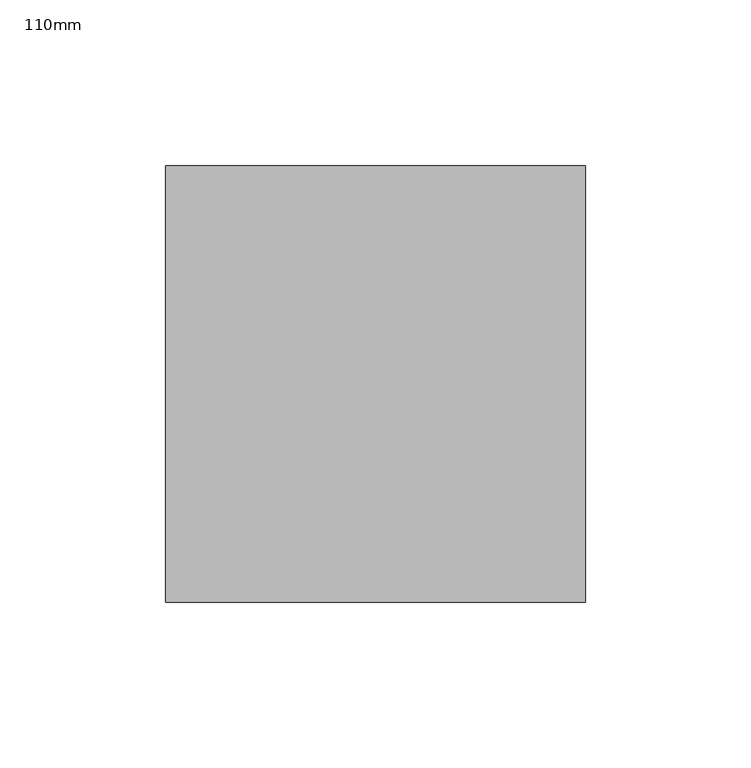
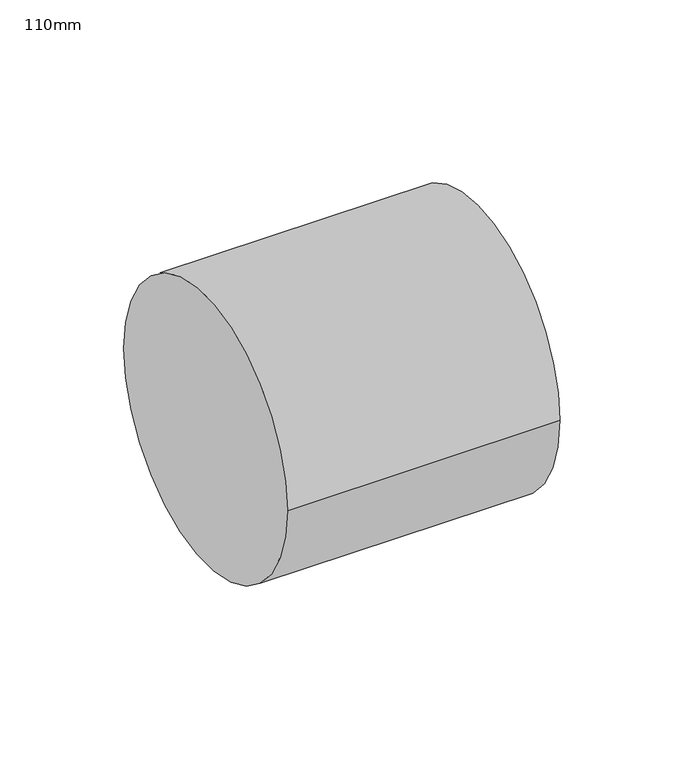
"""IFC4 building model written with IfcOpenShell, lengths in millimetres: pipe fitting geometry, PipeFitting_HTA_CPVC_Couplings : 110mm."""

from ifc_helpers import new_model, si_unit, point, frame, origin, origin_2d, place, context, project, spatial, circle_curve, trimmed, segment, composite_curve, outline, extrude, source, transform, mapped, element, save


def pipe_fitting_110mm_a73aa8ea(model_context):
    return source(origin(), model_context, "Body", "SweptSolid", [
        extrude(outline(composite_curve([segment(trimmed(circle_curve(origin_2d(), 66.0), [point((-66.0, 0.0))], [point((66.0, 0.0))], False, "CARTESIAN"), True, "CONTINUOUS"), segment(trimmed(circle_curve(origin_2d(), 66.0), [point((66.0, 0.0))], [point((-66.0, 0.0))], False, "CARTESIAN"), True, "CONTINUOUS")], self_intersect=False)), frame((-63.5, 0.0, 0.0), z_axis=(1.0, 0.0, 0.0), x_axis=(0.0, 1.0, 0.0)), (0.0, 0.0, 1.0), 127.0),
    ])


if __name__ == "__main__":
    model = new_model("IFC4")
    model_context = context("Model", 3, world=origin())
    ifc_project = project(units=[si_unit("LENGTHUNIT", "METRE", prefix="MILLI")], contexts=[model_context])
    site = spatial("IfcSite", under=ifc_project)
    building = spatial("IfcBuilding", under=site)
    placement = place(None, origin())
    pipe_fitting_110mm_shape = pipe_fitting_110mm_a73aa8ea(model_context)
    element("IfcPipeFitting", 1, ObjectType="PipeFitting_HTA_CPVC_Couplings : 110mm", at=placement, inside=building, context=model_context, shape_type="MappedRepresentation", body=[
        mapped(pipe_fitting_110mm_shape, transform((0.0, 0.0, 0.0), x_axis=(1.0, 0.0, 0.0), y_axis=(0.0, 1.0, 0.0), z_axis=(0.0, 0.0, 1.0))),
    ])
    save(model, "model.ifc")
